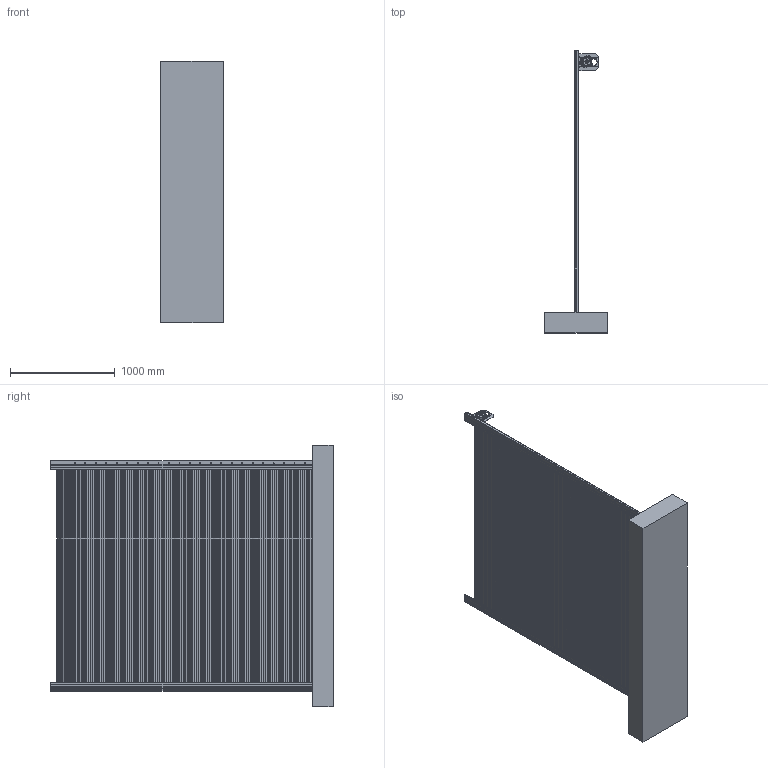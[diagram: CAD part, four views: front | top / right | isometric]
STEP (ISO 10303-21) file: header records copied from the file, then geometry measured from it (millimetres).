
FILE_DESCRIPTION (( 'STEP AP203' ), '1' );
FILE_NAME ('Kokema CD 200.STEP', '2019-06-28T08:43:03', ( '' ), ( '' ), 'SwSTEP 2.0', 'SolidWorks 2017', '' );
FILE_SCHEMA (( 'CONFIG_CONTROL_DESIGN' ));
Length unit declared in the file: millimetre
Products named in the file (1): Kokema CD 200
Bounding box: 600 x 2700 x 2500 mm (x, y, z)
Volume: 345567722.9 mm3; surface area: 47138408.2 mm2
Topology: 109 solids, 110 shells, 4500 faces, 12625 edges, 8357 vertices
Faces by surface type: cylinder 2279, plane 1981, bspline 130, torus 86, cone 16, sphere 8
Full cylindrical faces by diameter (mm): 3 x10, 3.5 x2, 4 x17, 6 x1, 7 x2, 7.2 x2, 8 x100, 9 x2, 12 x1, 15.6 x1, 20 x1, 20.537 x1, 21.6 x1, 24.077 x2, 26 x1, 28.863 x1, 40.6 x1, 45 x1, 46 x1, 48 x2
Entity records: 156493 total; most frequent: CARTESIAN_POINT 39345, ORIENTED_EDGE 24632, DIRECTION 24504, EDGE_CURVE 12316, AXIS2_PLACEMENT_3D 8676, VERTEX_POINT 8231, VECTOR 7152, LINE 7152
